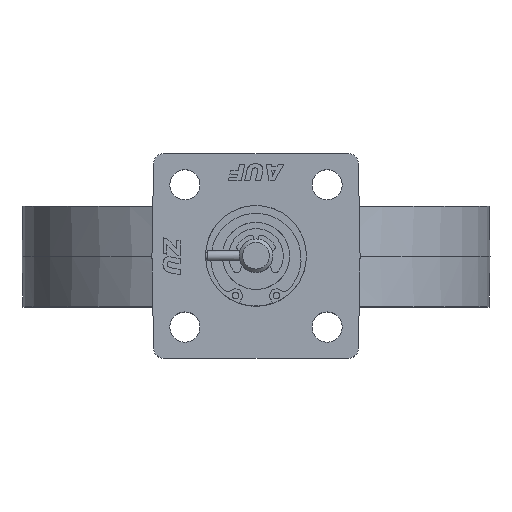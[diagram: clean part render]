
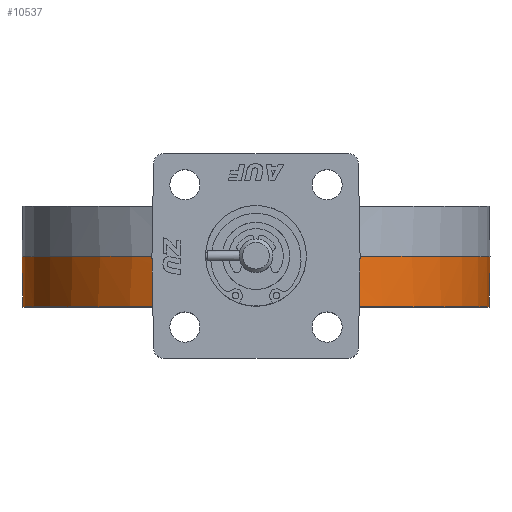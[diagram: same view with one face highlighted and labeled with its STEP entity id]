
A CAD part, top view. The second image highlights one B-rep face of the part: STEP entity #10537.
In plain terms, the highlighted conical face has half-angle 1 degrees and reference radius 69.5 mm.
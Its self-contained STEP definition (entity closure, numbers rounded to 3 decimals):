
#7075=CARTESIAN_POINT('',(26.241,0.,64.685));
#7076=VERTEX_POINT('',#7075);
#7148=CARTESIAN_POINT('',(-26.241,0.,64.685));
#7149=VERTEX_POINT('',#7148);
#7279=CARTESIAN_POINT('',(-26.238,-4.14,64.609));
#7280=VERTEX_POINT('',#7279);
#7298=CARTESIAN_POINT('',(-26.241,0.,64.685));
#7299=CARTESIAN_POINT('',(-26.24,-1.38,64.66));
#7300=CARTESIAN_POINT('',(-26.239,-2.76,64.634));
#7301=CARTESIAN_POINT('',(-26.238,-4.14,64.609));
#7302=B_SPLINE_CURVE_WITH_KNOTS('',3,(#7298,#7299,#7300,#7301),.UNSPECIFIED.,.F.,.U.,(4,4),(-2.733,-2.319),.UNSPECIFIED.);
#7303=EDGE_CURVE('',#7149,#7280,#7302,.T.);
#7673=CARTESIAN_POINT('',(26.238,-4.14,64.609));
#7674=VERTEX_POINT('',#7673);
#7692=CARTESIAN_POINT('',(26.238,-4.14,64.609));
#7693=CARTESIAN_POINT('',(26.239,-2.76,64.634));
#7694=CARTESIAN_POINT('',(26.24,-1.38,64.66));
#7695=CARTESIAN_POINT('',(26.241,0.,64.685));
#7696=B_SPLINE_CURVE_WITH_KNOTS('',3,(#7692,#7693,#7694,#7695),.UNSPECIFIED.,.F.,.U.,(4,4),(-1.414,-1.),.UNSPECIFIED.);
#7697=EDGE_CURVE('',#7674,#7076,#7696,.T.);
#9287=CARTESIAN_POINT('',(15.914,-15.,67.698));
#9288=VERTEX_POINT('',#9287);
#9300=CARTESIAN_POINT('',(15.915,-15.,67.698));
#9301=CARTESIAN_POINT('',(16.29,-14.843,67.613));
#9302=CARTESIAN_POINT('',(17.54,-14.248,67.319));
#9303=CARTESIAN_POINT('',(18.982,-13.269,66.941));
#9304=CARTESIAN_POINT('',(20.474,-11.972,66.52));
#9305=CARTESIAN_POINT('',(21.864,-10.555,66.107));
#9306=CARTESIAN_POINT('',(23.107,-8.973,65.708));
#9307=CARTESIAN_POINT('',(24.264,-7.31,65.319));
#9308=CARTESIAN_POINT('',(25.181,-5.885,64.998));
#9309=CARTESIAN_POINT('',(25.883,-4.729,64.742));
#9310=CARTESIAN_POINT('',(26.233,-4.149,64.611));
#9311=CARTESIAN_POINT('',(26.235,-4.144,64.61));
#9312=CARTESIAN_POINT('',(26.238,-4.14,64.609));
#9313=B_SPLINE_CURVE_WITH_KNOTS('',3,(#9300,#9301,#9302,#9303,#9304,#9305,#9306,#9307,#9308,#9309,#9310,#9311,#9312),.UNSPECIFIED.,.F.,.U.,(4,1,1,1,1,1,1,1,2,4),(-1.593,-1.462,-1.149,-1.044,-0.836,-0.522,-0.418,-0.209,0.,0.002),.UNSPECIFIED.);
#9314=EDGE_CURVE('',#9288,#7674,#9313,.T.);
#9868=CARTESIAN_POINT('',(0.0,0.,0.0));
#9869=DIRECTION('',(0.0,1.0,0.0));
#9870=DIRECTION('',(-1.0,0.0,0.0));
#9871=AXIS2_PLACEMENT_3D('',#9868,#9869,#9870);
#9872=CIRCLE('',#9871,69.805);
#9873=EDGE_CURVE('',#7076,#7149,#9872,.T.);
#10185=CARTESIAN_POINT('',(-15.914,-15.,67.698));
#10186=VERTEX_POINT('',#10185);
#10200=CARTESIAN_POINT('',(-26.238,-4.14,64.609));
#10201=CARTESIAN_POINT('',(-26.235,-4.144,64.61));
#10202=CARTESIAN_POINT('',(-26.233,-4.149,64.611));
#10203=CARTESIAN_POINT('',(-26.23,-4.153,64.612));
#10204=CARTESIAN_POINT('',(-25.734,-4.976,64.797));
#10205=CARTESIAN_POINT('',(-24.728,-6.63,65.162));
#10206=CARTESIAN_POINT('',(-23.094,-9.029,65.716));
#10207=CARTESIAN_POINT('',(-21.269,-11.235,66.291));
#10208=CARTESIAN_POINT('',(-19.539,-12.836,66.79));
#10209=CARTESIAN_POINT('',(-17.999,-13.928,67.197));
#10210=CARTESIAN_POINT('',(-16.91,-14.552,67.467));
#10211=CARTESIAN_POINT('',(-16.203,-14.879,67.632));
#10212=CARTESIAN_POINT('',(-15.914,-15.,67.698));
#10213=B_SPLINE_CURVE_WITH_KNOTS('',3,(#10200,#10201,#10202,#10203,#10204,#10205,#10206,#10207,#10208,#10209,#10210,#10211,#10212),.UNSPECIFIED.,.F.,.U.,(4,3,1,1,1,1,1,1,4),(-2.091,-2.089,-1.79,-1.492,-1.194,-0.895,-0.746,-0.597,-0.496),.UNSPECIFIED.);
#10214=EDGE_CURVE('',#7280,#10186,#10213,.T.);
#10250=CARTESIAN_POINT('',(0.0,-15.,0.0));
#10251=DIRECTION('',(0.0,1.0,0.0));
#10252=DIRECTION('',(-1.0,0.0,0.0));
#10253=AXIS2_PLACEMENT_3D('',#10250,#10251,#10252);
#10254=CIRCLE('',#10253,69.544);
#10255=EDGE_CURVE('',#9288,#10186,#10254,.T.);
#10524=CARTESIAN_POINT('',(0.0,-17.5,0.0));
#10525=DIRECTION('',(0.0,1.0,0.0));
#10526=DIRECTION('',(-1.0,0.0,0.0));
#10527=AXIS2_PLACEMENT_3D('',#10524,#10525,#10526);
#10528=CONICAL_SURFACE('',#10527,69.5,1.0);
#10529=ORIENTED_EDGE('',*,*,#9873,.F.);
#10530=ORIENTED_EDGE('',*,*,#7697,.F.);
#10531=ORIENTED_EDGE('',*,*,#9314,.F.);
#10532=ORIENTED_EDGE('',*,*,#10255,.T.);
#10533=ORIENTED_EDGE('',*,*,#10214,.F.);
#10534=ORIENTED_EDGE('',*,*,#7303,.F.);
#10535=EDGE_LOOP('',(#10529,#10530,#10531,#10532,#10533,#10534));
#10536=FACE_OUTER_BOUND('',#10535,.T.);
#10537=ADVANCED_FACE('',(#10536),#10528,.T.);
